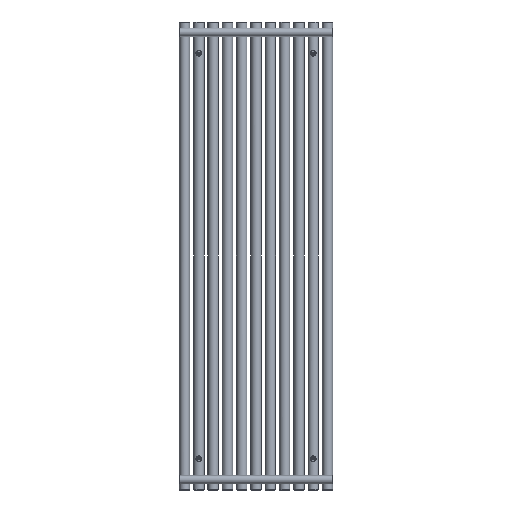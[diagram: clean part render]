
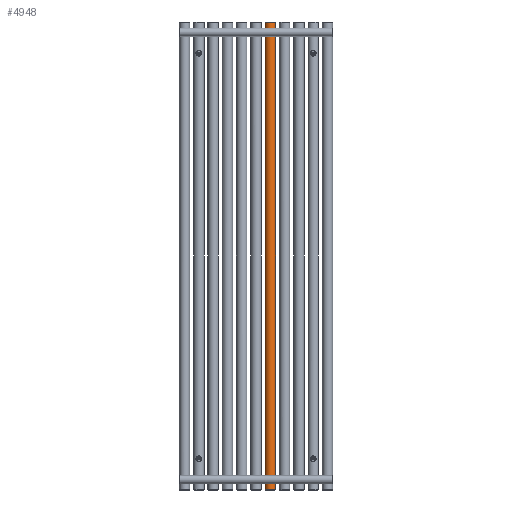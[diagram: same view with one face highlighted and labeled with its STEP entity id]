
A CAD part, front view. The second image highlights one B-rep face of the part: STEP entity #4948.
In plain terms, the highlighted cylindrical face has radius 20 mm (diameter 40 mm), a full revolution.
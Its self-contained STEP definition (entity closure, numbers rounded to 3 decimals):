
#302=FACE_BOUND('',#1044,.T.);
#303=FACE_BOUND('',#1045,.T.);
#304=FACE_BOUND('',#1046,.T.);
#374=LINE('',#9778,#499);
#499=VECTOR('',#6177,20.);
#624=CYLINDRICAL_SURFACE('',#5326,20.);
#702=FACE_OUTER_BOUND('',#1043,.T.);
#1043=EDGE_LOOP('',(#3442,#3443,#3444,#3445,#3446));
#1044=EDGE_LOOP('',(#3447));
#1045=EDGE_LOOP('',(#3448));
#1046=EDGE_LOOP('',(#3449));
#1435=B_SPLINE_CURVE_WITH_KNOTS('',3,(#9752,#9753,#9754,#9755,#9756,#9757,
#9758,#9759,#9760,#9761,#9762,#9763,#9764,#9765,#9766,#9767,#9768,#9769,
#9770,#9771,#9772),.UNSPECIFIED.,.T.,.F.,(4,1,1,1,1,1,1,1,1,1,1,1,1,1,1,
1,1,1,4),(-5.132,-4.765,-4.399,-4.154,
-3.91,-3.788,-3.666,-3.421,
-3.177,-2.933,-2.688,-2.199,
-1.955,-1.711,-1.466,-1.1,
-0.733,-0.367,0.),.UNSPECIFIED.);
#1436=B_SPLINE_CURVE_WITH_KNOTS('',3,(#9782,#9783,#9784,#9785,#9786,#9787,
#9788,#9789,#9790,#9791,#9792,#9793,#9794,#9795,#9796,#9797,#9798,#9799,
#9800,#9801),.UNSPECIFIED.,.T.,.F.,(4,1,1,1,1,1,1,1,1,1,1,1,1,1,1,1,1,4),
(-5.132,-4.765,-4.399,-4.032,
-3.666,-3.421,-3.177,-2.933,
-2.688,-2.199,-1.955,-1.711,
-1.466,-1.222,-0.978,-0.733,
-0.367,0.),.UNSPECIFIED.);
#1437=B_SPLINE_CURVE_WITH_KNOTS('',3,(#9803,#9804,#9805,#9806,#9807,#9808,
#9809,#9810,#9811,#9812,#9813,#9814,#9815,#9816,#9817,#9818,#9819,#9820),
 .UNSPECIFIED.,.T.,.F.,(4,1,1,1,1,1,1,1,1,1,1,1,1,1,1,4),(-6.15,
-5.711,-5.272,-4.686,-4.393,
-3.807,-3.514,-3.222,-2.929,
-2.636,-2.05,-1.757,-1.318,
-0.879,-0.439,0.),.UNSPECIFIED.);
#1545=CIRCLE('',#5327,20.);
#1546=CIRCLE('',#5328,20.);
#1547=CIRCLE('',#5329,20.);
#2080=VERTEX_POINT('',#9750);
#2081=VERTEX_POINT('',#9774);
#2082=VERTEX_POINT('',#9775);
#2083=VERTEX_POINT('',#9777);
#2084=VERTEX_POINT('',#9781);
#2085=VERTEX_POINT('',#9802);
#2638=EDGE_CURVE('',#2080,#2080,#1435,.T.);
#2639=EDGE_CURVE('',#2081,#2082,#1545,.T.);
#2640=EDGE_CURVE('',#2081,#2083,#374,.T.);
#2641=EDGE_CURVE('',#2083,#2083,#1546,.T.);
#2642=EDGE_CURVE('',#2082,#2081,#1547,.T.);
#2643=EDGE_CURVE('',#2084,#2084,#1436,.T.);
#2644=EDGE_CURVE('',#2085,#2085,#1437,.T.);
#3442=ORIENTED_EDGE('',*,*,#2639,.F.);
#3443=ORIENTED_EDGE('',*,*,#2640,.T.);
#3444=ORIENTED_EDGE('',*,*,#2641,.F.);
#3445=ORIENTED_EDGE('',*,*,#2640,.F.);
#3446=ORIENTED_EDGE('',*,*,#2642,.F.);
#3447=ORIENTED_EDGE('',*,*,#2643,.F.);
#3448=ORIENTED_EDGE('',*,*,#2644,.F.);
#3449=ORIENTED_EDGE('',*,*,#2638,.F.);
#4948=ADVANCED_FACE('',(#702,#302,#303,#304),#624,.T.);
#5326=AXIS2_PLACEMENT_3D('',#9773,#6173,#6174);
#5327=AXIS2_PLACEMENT_3D('',#9776,#6175,#6176);
#5328=AXIS2_PLACEMENT_3D('',#9779,#6178,#6179);
#5329=AXIS2_PLACEMENT_3D('',#9780,#6180,#6181);
#6173=DIRECTION('center_axis',(0.,0.,1.));
#6174=DIRECTION('ref_axis',(-1.,0.,0.));
#6175=DIRECTION('center_axis',(0.,0.,1.));
#6176=DIRECTION('ref_axis',(-1.,0.,0.));
#6177=DIRECTION('',(0.,0.,-1.));
#6178=DIRECTION('center_axis',(0.,0.,-1.));
#6179=DIRECTION('ref_axis',(-1.,0.,0.));
#6180=DIRECTION('center_axis',(0.,0.,1.));
#6181=DIRECTION('ref_axis',(-1.,0.,0.));
#9750=CARTESIAN_POINT('',(-220.,-20.,50.1));
#9752=CARTESIAN_POINT('Ctrl Pts',(-220.,-20.,50.1));
#9753=CARTESIAN_POINT('Ctrl Pts',(-221.611,-20.,50.1));
#9754=CARTESIAN_POINT('Ctrl Pts',(-224.838,-19.598,49.587));
#9755=CARTESIAN_POINT('Ctrl Pts',(-228.411,-18.224,47.307));
#9756=CARTESIAN_POINT('Ctrl Pts',(-230.379,-17.114,44.115));
#9757=CARTESIAN_POINT('Ctrl Pts',(-230.993,-16.707,41.396));
#9758=CARTESIAN_POINT('Ctrl Pts',(-230.992,-16.708,39.163));
#9759=CARTESIAN_POINT('Ctrl Pts',(-230.666,-16.92,36.968));
#9760=CARTESIAN_POINT('Ctrl Pts',(-229.649,-17.552,34.429));
#9761=CARTESIAN_POINT('Ctrl Pts',(-227.534,-18.592,32.083));
#9762=CARTESIAN_POINT('Ctrl Pts',(-224.761,-19.504,30.58));
#9763=CARTESIAN_POINT('Ctrl Pts',(-220.581,-20.198,29.637));
#9764=CARTESIAN_POINT('Ctrl Pts',(-216.165,-19.824,30.09));
#9765=CARTESIAN_POINT('Ctrl Pts',(-212.466,-18.588,32.082));
#9766=CARTESIAN_POINT('Ctrl Pts',(-210.351,-17.556,34.43));
#9767=CARTESIAN_POINT('Ctrl Pts',(-208.927,-16.66,37.98));
#9768=CARTESIAN_POINT('Ctrl Pts',(-208.922,-16.66,42.599));
#9769=CARTESIAN_POINT('Ctrl Pts',(-211.137,-18.052,47.027));
#9770=CARTESIAN_POINT('Ctrl Pts',(-215.165,-19.6,49.585));
#9771=CARTESIAN_POINT('Ctrl Pts',(-218.389,-20.,50.1));
#9772=CARTESIAN_POINT('Ctrl Pts',(-220.,-20.,50.1));
#9773=CARTESIAN_POINT('Origin',(-220.,0.,0.));
#9774=CARTESIAN_POINT('',(-200.,0.,1798.));
#9775=CARTESIAN_POINT('',(-240.,0.,1798.));
#9776=CARTESIAN_POINT('Origin',(-220.,0.,1798.));
#9777=CARTESIAN_POINT('',(-200.,0.,2.));
#9778=CARTESIAN_POINT('',(-200.,0.,0.));
#9779=CARTESIAN_POINT('Origin',(-220.,0.,2.));
#9780=CARTESIAN_POINT('Origin',(-220.,0.,1798.));
#9781=CARTESIAN_POINT('',(-220.,-20.,1770.1));
#9782=CARTESIAN_POINT('Ctrl Pts',(-220.,-20.,1770.1));
#9783=CARTESIAN_POINT('Ctrl Pts',(-221.611,-20.,1770.1));
#9784=CARTESIAN_POINT('Ctrl Pts',(-224.835,-19.6,1769.586));
#9785=CARTESIAN_POINT('Ctrl Pts',(-228.863,-18.052,1767.028));
#9786=CARTESIAN_POINT('Ctrl Pts',(-231.079,-16.659,1762.599));
#9787=CARTESIAN_POINT('Ctrl Pts',(-231.073,-16.66,1757.981));
#9788=CARTESIAN_POINT('Ctrl Pts',(-229.649,-17.552,1754.43));
#9789=CARTESIAN_POINT('Ctrl Pts',(-227.534,-18.59,1752.083));
#9790=CARTESIAN_POINT('Ctrl Pts',(-224.761,-19.502,1750.58));
#9791=CARTESIAN_POINT('Ctrl Pts',(-220.581,-20.202,1749.64));
#9792=CARTESIAN_POINT('Ctrl Pts',(-216.164,-19.82,1750.087));
#9793=CARTESIAN_POINT('Ctrl Pts',(-212.465,-18.589,1752.081));
#9794=CARTESIAN_POINT('Ctrl Pts',(-210.351,-17.555,1754.431));
#9795=CARTESIAN_POINT('Ctrl Pts',(-209.13,-16.793,1757.475));
#9796=CARTESIAN_POINT('Ctrl Pts',(-208.885,-16.626,1760.853));
#9797=CARTESIAN_POINT('Ctrl Pts',(-209.62,-17.113,1764.117));
#9798=CARTESIAN_POINT('Ctrl Pts',(-211.588,-18.224,1767.308));
#9799=CARTESIAN_POINT('Ctrl Pts',(-215.162,-19.597,1769.588));
#9800=CARTESIAN_POINT('Ctrl Pts',(-218.389,-20.,1770.1));
#9801=CARTESIAN_POINT('Ctrl Pts',(-220.,-20.,1770.1));
#9802=CARTESIAN_POINT('',(-230.476,17.037,1600.));
#9803=CARTESIAN_POINT('Ctrl Pts',(-230.476,17.037,1600.));
#9804=CARTESIAN_POINT('Ctrl Pts',(-230.476,17.037,1601.678));
#9805=CARTESIAN_POINT('Ctrl Pts',(-229.709,17.527,1605.001));
#9806=CARTESIAN_POINT('Ctrl Pts',(-226.466,19.121,1609.277));
#9807=CARTESIAN_POINT('Ctrl Pts',(-221.907,20.124,1611.232));
#9808=CARTESIAN_POINT('Ctrl Pts',(-216.486,19.897,1610.787));
#9809=CARTESIAN_POINT('Ctrl Pts',(-212.791,18.762,1608.482));
#9810=CARTESIAN_POINT('Ctrl Pts',(-210.449,17.593,1604.898));
#9811=CARTESIAN_POINT('Ctrl Pts',(-209.484,17.014,1601.706));
#9812=CARTESIAN_POINT('Ctrl Pts',(-209.486,17.014,1598.293));
#9813=CARTESIAN_POINT('Ctrl Pts',(-210.768,17.795,1594.04));
#9814=CARTESIAN_POINT('Ctrl Pts',(-213.647,19.134,1590.785));
#9815=CARTESIAN_POINT('Ctrl Pts',(-218.071,20.041,1588.91));
#9816=CARTESIAN_POINT('Ctrl Pts',(-222.48,20.043,1588.912));
#9817=CARTESIAN_POINT('Ctrl Pts',(-226.787,18.951,1591.157));
#9818=CARTESIAN_POINT('Ctrl Pts',(-229.716,17.533,1594.995));
#9819=CARTESIAN_POINT('Ctrl Pts',(-230.476,17.037,1598.322));
#9820=CARTESIAN_POINT('Ctrl Pts',(-230.476,17.037,1600.));
